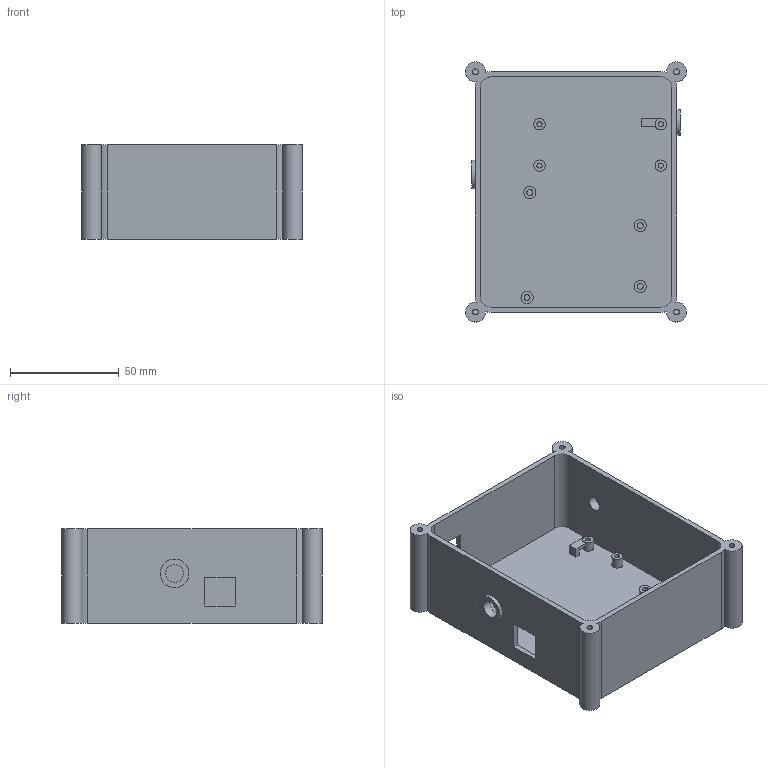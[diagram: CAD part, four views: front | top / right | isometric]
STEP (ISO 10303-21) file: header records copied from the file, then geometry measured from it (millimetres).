
FILE_DESCRIPTION(('Open CASCADE Model'),'2;1');
FILE_NAME('Open CASCADE Shape Model','2026-11-19T06:42:06',('Author'),( 'Open CASCADE'),'Open CASCADE STEP processor 8.0','Open CASCADE 8.0' ,'Unknown');
FILE_SCHEMA(('AUTOMOTIVE_DESIGN { 1 0 10303 214 1 1 1 1 }'));
Length unit declared in the file: millimetre
Products named in the file (1): Open CASCADE STEP translator 8.0 41
Bounding box: 101.64 x 119.64 x 43.4 mm (x, y, z)
Volume: 72150.4 mm3; surface area: 57765.3 mm2
Topology: 1 solids, 1 shells, 98 faces, 216 edges, 144 vertices
Faces by surface type: plane 53, cylinder 45
Full cylindrical faces by diameter (mm): 2.35 x4, 2.75 x12, 5.2 x4, 5.6 x4, 6.65 x1, 8.15 x1, 11.7 x1, 13.2 x1
Entity records: 5552 total; most frequent: CARTESIAN_POINT 1058, DIRECTION 856, ORIENTED_EDGE 432, PCURVE 432, DEFINITIONAL_REPRESENTATION 432, LINE 383, VECTOR 383, EDGE_CURVE 216
